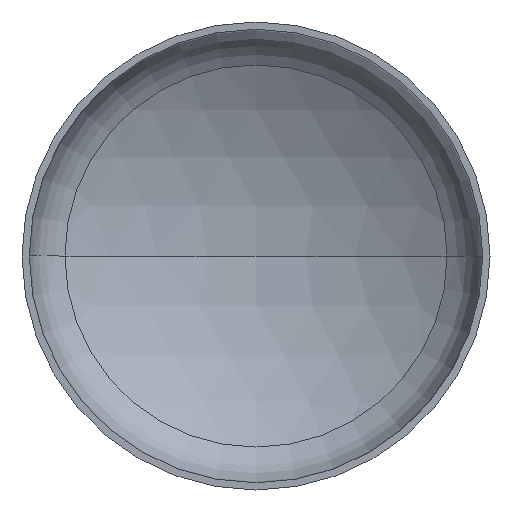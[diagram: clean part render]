
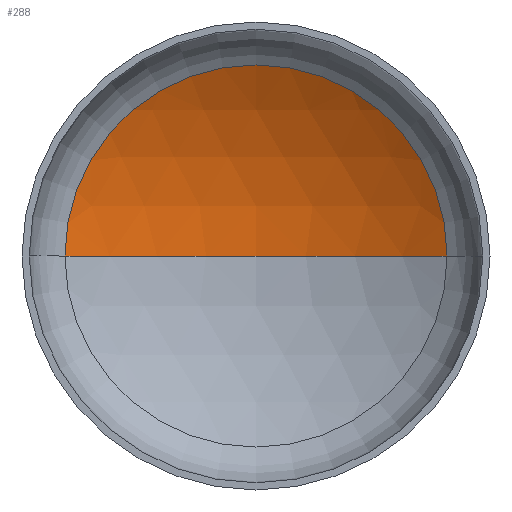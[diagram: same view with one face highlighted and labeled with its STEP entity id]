
A CAD part, front view. The second image highlights one B-rep face of the part: STEP entity #288.
In plain terms, the highlighted spherical face has radius 720 mm.
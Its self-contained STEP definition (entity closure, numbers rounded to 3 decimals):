
#3 = EDGE_LOOP ( 'NONE', ( #35, #28, #127 ) ) ;
#28 = ORIENTED_EDGE ( 'NONE', *, *, #198, .T. ) ;
#35 = ORIENTED_EDGE ( 'NONE', *, *, #222, .F. ) ;
#36 = AXIS2_PLACEMENT_3D ( 'NONE', #171, #147, #174 ) ;
#56 = AXIS2_PLACEMENT_3D ( 'NONE', #248, #246, #245 ) ;
#65 = AXIS2_PLACEMENT_3D ( 'NONE', #209, #229, #225 ) ;
#81 = AXIS2_PLACEMENT_3D ( 'NONE', #258, #257, #282 ) ;
#84 = VERTEX_POINT ( 'NONE', #342 ) ;
#120 = VERTEX_POINT ( 'NONE', #316 ) ;
#127 = ORIENTED_EDGE ( 'NONE', *, *, #196, .T. ) ;
#134 = VERTEX_POINT ( 'NONE', #311 ) ;
#147 = DIRECTION ( 'NONE',  ( 0., 0., -1. ) ) ;
#171 = CARTESIAN_POINT ( 'NONE',  ( 0., -453.783, 0. ) ) ;
#174 = DIRECTION ( 'NONE',  ( -1., 0., 0. ) ) ;
#196 = EDGE_CURVE ( 'NONE', #84, #134, #244, .T. ) ;
#198 = EDGE_CURVE ( 'NONE', #120, #84, #361, .T. ) ;
#209 = CARTESIAN_POINT ( 'NONE',  ( 0., 165.396, 0. ) ) ;
#222 = EDGE_CURVE ( 'NONE', #120, #134, #298, .T. ) ;
#225 = DIRECTION ( 'NONE',  ( 1., 0., 0. ) ) ;
#229 = DIRECTION ( 'NONE',  ( 0., -1., 0. ) ) ;
#244 = CIRCLE ( 'NONE', #65, 367.448 ) ;
#245 = DIRECTION ( 'NONE',  ( 1., 0., 0. ) ) ;
#246 = DIRECTION ( 'NONE',  ( 0., 0., 1. ) ) ;
#248 = CARTESIAN_POINT ( 'NONE',  ( 0., -453.783, 0. ) ) ;
#257 = DIRECTION ( 'NONE',  ( 0., 0., -1. ) ) ;
#258 = CARTESIAN_POINT ( 'NONE',  ( 0., -453.783, 0. ) ) ;
#282 = DIRECTION ( 'NONE',  ( -1., 0., 0. ) ) ;
#283 = FACE_OUTER_BOUND ( 'NONE', #3, .T. ) ;
#288 = ADVANCED_FACE ( 'NONE', ( #283 ), #343, .F. ) ;
#298 = CIRCLE ( 'NONE', #56, 720. ) ;
#311 = CARTESIAN_POINT ( 'NONE',  ( -367.448, 165.396, 0. ) ) ;
#316 = CARTESIAN_POINT ( 'NONE',  ( 0., 266.217, 0. ) ) ;
#342 = CARTESIAN_POINT ( 'NONE',  ( 367.448, 165.396, 0. ) ) ;
#343 = SPHERICAL_SURFACE ( 'NONE', #36, 720. ) ;
#361 = CIRCLE ( 'NONE', #81, 720. ) ;
